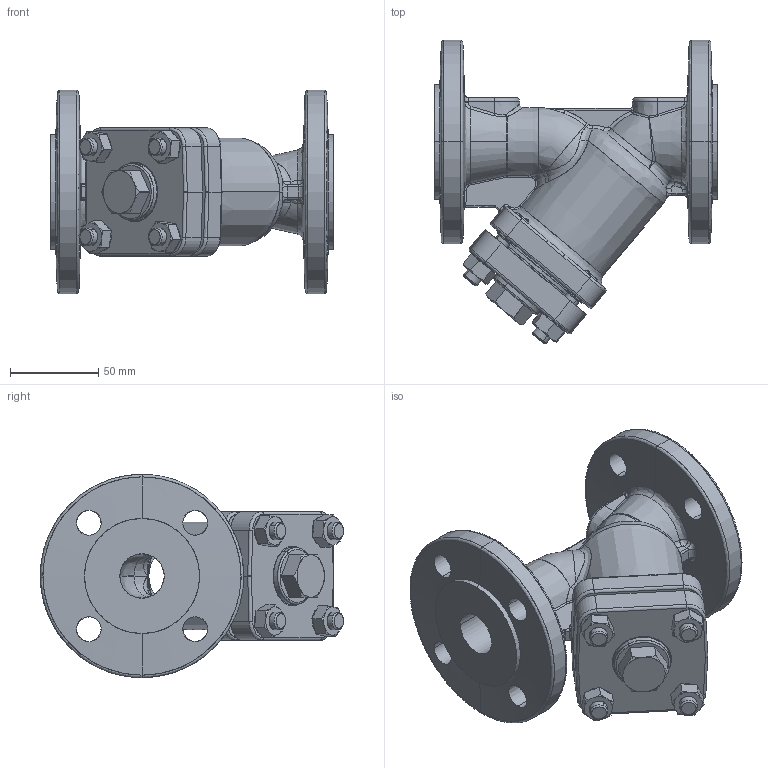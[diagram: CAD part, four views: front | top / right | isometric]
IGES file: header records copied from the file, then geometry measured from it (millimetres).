
Start section: SolidWorks IGES file using analytic representation for surfaces
Global section: file name: D:\katalog z³o¿eñ\00_Gotowe\821\RYSUNKI DXF\Z£O¯ENIA\Part\821_DN25_PN16.IGS; native system: SolidWorks 2010; preprocessor: SolidWorks 2010; author: alisowsk; date: 100108.122944; units: millimetre
Bounding box: 160 x 171.53 x 115 mm (x, y, z)
Surface area: 139549.5 mm2 (no closed solid volume)
Topology: 0 solids, 0 shells, 631 faces, 8572 edges, 8564 vertices
Faces by surface type: bspline 317, revolution 314
